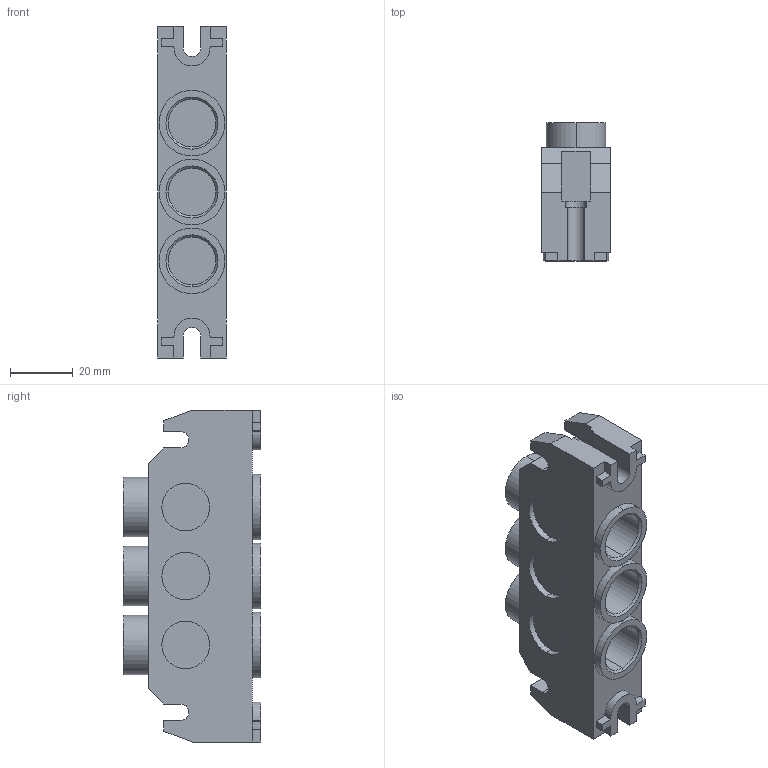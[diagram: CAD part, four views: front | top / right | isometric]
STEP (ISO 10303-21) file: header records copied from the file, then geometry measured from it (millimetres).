
FILE_DESCRIPTION((''),'2;1');
FILE_NAME('5801510000','2015-04-16T',('mla1hc'),(''),'PRO/ENGINEER BY PARAMETRIC TECHNOLOGY CORPORATION, 2011490','PRO/ENGINEER BY PARAMETRIC TECHNOLOGY CORPORATION, 2011490','');
FILE_SCHEMA(('AUTOMOTIVE_DESIGN_CC2 { 1 2 10303 214 -1 1 5 2 }'));
Length unit declared in the file: millimetre
Products named in the file (1): 5801510000
Bounding box: 22 x 44 x 106 mm (x, y, z)
Volume: 54992.6 mm3; surface area: 21851.6 mm2
Topology: 1 solids, 1 shells, 162 faces, 408 edges, 266 vertices
Faces by surface type: plane 88, cylinder 56, cone 18
Entity records: 5503 total; most frequent: CARTESIAN_POINT 1496, DIRECTION 838, ORIENTED_EDGE 816, EDGE_CURVE 408, AXIS2_PLACEMENT_3D 280, VECTOR 278, LINE 278, VERTEX_POINT 266
